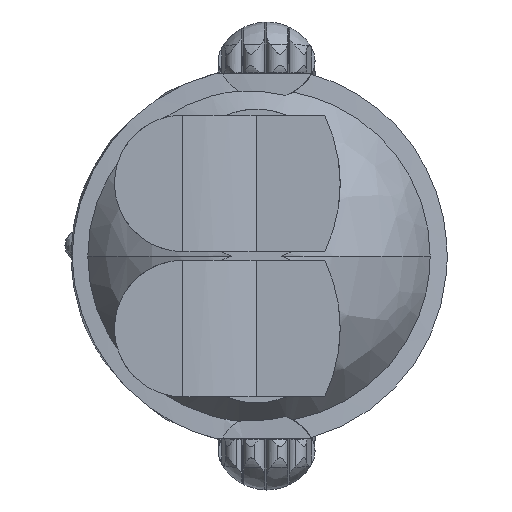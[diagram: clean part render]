
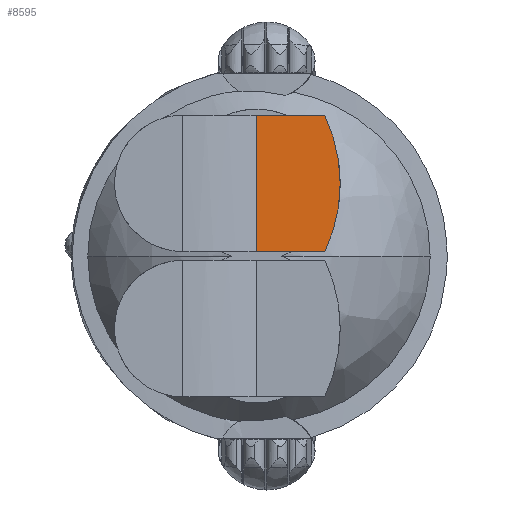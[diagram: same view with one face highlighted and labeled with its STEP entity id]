
A CAD part, front view. The second image highlights one B-rep face of the part: STEP entity #8595.
In plain terms, the highlighted planar face has unit normal (0, -1, 0).
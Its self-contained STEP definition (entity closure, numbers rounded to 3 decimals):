
#359 = DIRECTION ( 'NONE',  ( -1., 0., 0. ) ) ;
#560 = ORIENTED_EDGE ( 'NONE', *, *, #21002, .F. ) ;
#1070 = CARTESIAN_POINT ( 'NONE',  ( 10., -65.5, 6.9 ) ) ;
#1386 = DIRECTION ( 'NONE',  ( 0., 0., 1. ) ) ;
#1786 = CARTESIAN_POINT ( 'NONE',  ( 9.507, -65.5, 2.454 ) ) ;
#3041 = EDGE_CURVE ( 'NONE', #7150, #17676, #19134, .T. ) ;
#3659 = VERTEX_POINT ( 'NONE', #15495 ) ;
#3797 = ORIENTED_EDGE ( 'NONE', *, *, #3041, .F. ) ;
#4362 = VECTOR ( 'NONE', #16266, 1000. ) ;
#4481 = ORIENTED_EDGE ( 'NONE', *, *, #17827, .F. ) ;
#4617 = PLANE ( 'NONE',  #9198 ) ;
#5151 = VECTOR ( 'NONE', #10271, 1000. ) ;
#5959 = VERTEX_POINT ( 'NONE', #15016 ) ;
#6240 =( BOUNDED_CURVE ( )  B_SPLINE_CURVE ( 3, ( #13979, #22767, #1786, #14132 ),
 .UNSPECIFIED., .F., .F. ) 
 B_SPLINE_CURVE_WITH_KNOTS ( ( 4, 4 ),
 ( 0., 1. ),
 .UNSPECIFIED. ) 
 CURVE ( )  GEOMETRIC_REPRESENTATION_ITEM ( )  RATIONAL_B_SPLINE_CURVE ( ( 1., 0.983, 0.983, 1. ) ) 
 REPRESENTATION_ITEM ( '' )  );
#7089 = LINE ( 'NONE', #10983, #15875 ) ;
#7150 = VERTEX_POINT ( 'NONE', #12455 ) ;
#8152 = CARTESIAN_POINT ( 'NONE',  ( 8.515, -65.5, 13.423 ) ) ;
#8533 = CARTESIAN_POINT ( 'NONE',  ( 8.515, -65.5, 13.423 ) ) ;
#8595 = ADVANCED_FACE ( 'NONE', ( #19630 ), #4617, .F. ) ;
#9066 = LINE ( 'NONE', #12730, #4362 ) ;
#9198 = AXIS2_PLACEMENT_3D ( 'NONE', #22401, #11990, #1386 ) ;
#9363 = CARTESIAN_POINT ( 'NONE',  ( 2., -65.5, 0.423 ) ) ;
#9722 = CARTESIAN_POINT ( 'NONE',  ( 10., -65.5, 13.423 ) ) ;
#10271 = DIRECTION ( 'NONE',  ( 1., 0., 0. ) ) ;
#10983 = CARTESIAN_POINT ( 'NONE',  ( -5., -65.5, 0.423 ) ) ;
#11666 = CARTESIAN_POINT ( 'NONE',  ( 10.003, -65.5, 9.168 ) ) ;
#11990 = DIRECTION ( 'NONE',  ( 0., 1., 0. ) ) ;
#12455 = CARTESIAN_POINT ( 'NONE',  ( 2., -65.5, 13.423 ) ) ;
#12730 = CARTESIAN_POINT ( 'NONE',  ( 2., -65.5, -6.4 ) ) ;
#12794 =( BOUNDED_CURVE ( )  B_SPLINE_CURVE ( 3, ( #8152, #18640, #11666, #1070 ),
 .UNSPECIFIED., .F., .F. ) 
 B_SPLINE_CURVE_WITH_KNOTS ( ( 4, 4 ),
 ( 0., 1. ),
 .UNSPECIFIED. ) 
 CURVE ( )  GEOMETRIC_REPRESENTATION_ITEM ( )  RATIONAL_B_SPLINE_CURVE ( ( 1., 0.983, 0.983, 1. ) ) 
 REPRESENTATION_ITEM ( '' )  );
#13920 = EDGE_CURVE ( 'NONE', #19944, #7150, #9066, .T. ) ;
#13979 = CARTESIAN_POINT ( 'NONE',  ( 10., -65.5, 6.9 ) ) ;
#14132 = CARTESIAN_POINT ( 'NONE',  ( 8.538, -65.5, 0.423 ) ) ;
#15016 = CARTESIAN_POINT ( 'NONE',  ( 10., -65.5, 6.9 ) ) ;
#15495 = CARTESIAN_POINT ( 'NONE',  ( 8.538, -65.5, 0.423 ) ) ;
#15647 = ORIENTED_EDGE ( 'NONE', *, *, #16153, .F. ) ;
#15875 = VECTOR ( 'NONE', #359, 1000. ) ;
#16153 = EDGE_CURVE ( 'NONE', #17676, #5959, #12794, .T. ) ;
#16266 = DIRECTION ( 'NONE',  ( 0., 0., 1. ) ) ;
#16952 = EDGE_LOOP ( 'NONE', ( #4481, #15647, #3797, #20890, #560 ) ) ;
#17676 = VERTEX_POINT ( 'NONE', #8533 ) ;
#17827 = EDGE_CURVE ( 'NONE', #5959, #3659, #6240, .T. ) ;
#18640 = CARTESIAN_POINT ( 'NONE',  ( 9.499, -65.5, 11.38 ) ) ;
#19134 = LINE ( 'NONE', #9722, #5151 ) ;
#19630 = FACE_OUTER_BOUND ( 'NONE', #16952, .T. ) ;
#19944 = VERTEX_POINT ( 'NONE', #9363 ) ;
#20890 = ORIENTED_EDGE ( 'NONE', *, *, #13920, .F. ) ;
#21002 = EDGE_CURVE ( 'NONE', #3659, #19944, #7089, .T. ) ;
#22401 = CARTESIAN_POINT ( 'NONE',  ( -5., -65.5, -6.4 ) ) ;
#22767 = CARTESIAN_POINT ( 'NONE',  ( 10.003, -65.5, 4.65 ) ) ;
